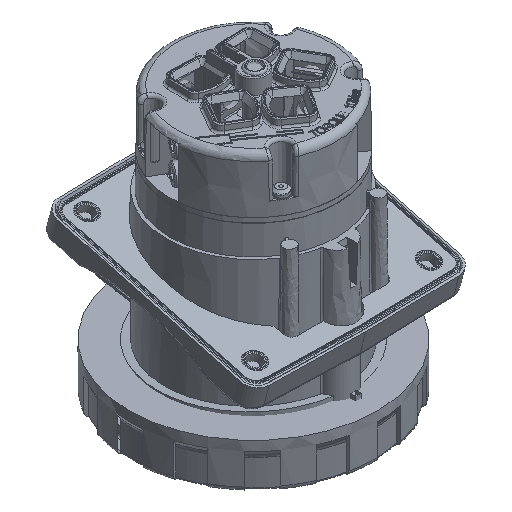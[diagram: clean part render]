
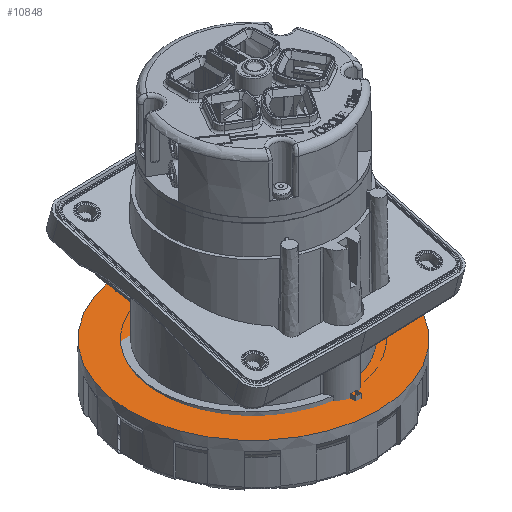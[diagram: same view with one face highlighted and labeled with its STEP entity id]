
A CAD part, isometric view. The second image highlights one B-rep face of the part: STEP entity #10848.
In plain terms, the highlighted planar face has unit normal (0, 0, 1).
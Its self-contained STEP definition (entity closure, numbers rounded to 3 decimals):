
#10848=ADVANCED_FACE('',(#12069),#11369,.T.);
#11369=PLANE('',#27541);
#12069=FACE_OUTER_BOUND('',#12922,.T.);
#12922=EDGE_LOOP('',(#16915));
#16915=ORIENTED_EDGE('',*,*,#24021,.T.);
#20605=VERTEX_POINT('',#47716);
#24021=EDGE_CURVE('',#20605,#20605,#25871,.T.);
#25871=CIRCLE('',#27540,64.25);
#27540=AXIS2_PLACEMENT_3D('',#47715,#31752,#31753);
#27541=AXIS2_PLACEMENT_3D('',#47717,#31754,#31755);
#31752=DIRECTION('',(0.,0.,1.));
#31753=DIRECTION('',(1.,0.,0.));
#31754=DIRECTION('',(0.,0.,1.));
#31755=DIRECTION('',(0.,-1.,0.));
#47715=CARTESIAN_POINT('',(-7.619,15.656,-270.111));
#47716=CARTESIAN_POINT('',(56.631,15.656,-270.111));
#47717=CARTESIAN_POINT('',(57.427,-48.605,-270.111));
